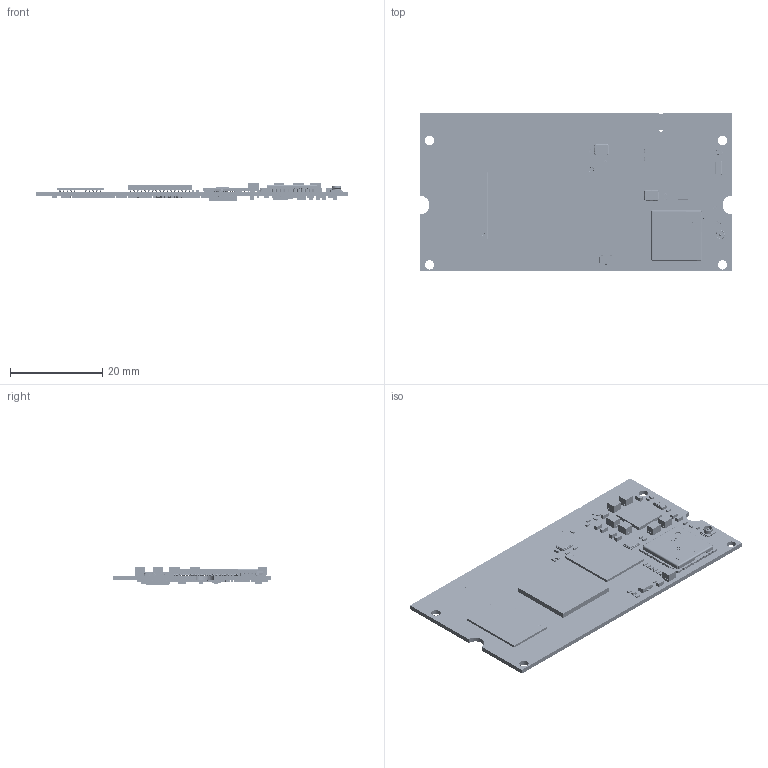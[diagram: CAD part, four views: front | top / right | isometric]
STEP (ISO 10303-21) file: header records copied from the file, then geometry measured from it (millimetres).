
FILE_DESCRIPTION(/* description */ ('PCB Design'),/* implementation_level */ '2;1');
FILE_NAME(/* name */ 'PICO-iMX8M-MINI-V2',/* time_stamp */ '2026-08-12T21:23:06+08:00',/* author */ (''),/* organization */ (''),/* preprocessor_version */ 'ST-DEVELOPER v16',/* originating_system */ 'allegro_17.2S053',/* authorisation */ '');
FILE_SCHEMA (('AUTOMOTIVE_DESIGN { 1 0 10303 214 3 1 1 }'));
Products named in the file (271): PICO-IMX8M-MINI-V2; BOARD_OUTLINE; COMPONENTS; UMLP8; SO-DIMM200; MARK; L25X20; DFN8_1P27_6X5MM_3P1; L0805; QFN44P0_90B12_00X12_00H1_50; LED_0603; 0402_RR; 0201_CC; R0402; C0402; C0603; 0402_CC; SOT23; XTAL2-3P2X1P5-SM; IND_SPH2520; SMT_UMCCVERT; X4S32X25; UQFN56_0P4_7X7_EP_S185; FBGA153_0P5_11P5X13; BGA486_0P5_14X14; BGA200_0P65X0P8_10P1X14P6; User Library-INDM2520X190N; User Library-DFN8-5X6; Pad005; Pad007; Pad008; Pad003; Pad004; Pad; Pad001; Pad002; Pad006; Pad009; 0; CR2012-0805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
Assembly tree (840 placements, depth 7):
  PICO-IMX8M-MINI-V2
    BOARD_OUTLINE
    COMPONENTS
      UMLP8  x2
      SO-DIMM200
      MARK  x6
      L25X20
        User Library-INDM2520X190N
      DFN8_1P27_6X5MM_3P1
        User Library-DFN8-5X6
          Pad001
          Pad002
          Pad
          Pad009
          Pad003
          Pad005
          Pad004
          Pad006
          Pad007
          Pad008
      L0805
        0
        CR2012-0805
      QFN44P0_90B12_00X12_00H1_50
        User Library-AP62XX-1
      LED_0603
        User Library-LED_0603_R
          Pocket002
          Pad004
          Fillet
          Pocket001
          Pad
      0402_RR  x7
        0
        CR1005-04021
      0201_CC  x42
        User Library-User Library-0201_Cap
      R0402  x100
        0
        CR1005-04021
      C0402  x107
        0
        SC0402
      C0603  x23
        0
        C0603-1
      0402_CC  x9
        0
        SC0402
      SOT23
        CircuitWorks-SOT-23
      XTAL2-3P2X1P5-SM
        0637D9F9-BE46-411F-B9CE-197B637E80A1
      IND_SPH2520  x6
        User Library-INDM2520X190N
      SMT_UMCCVERT
        User Library-IPEX
      X4S32X25  x2
        0
        3225-1
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Bounding box: 67.6 x 34.33 x 3.73 mm (x, y, z)
Volume: 780.4 mm3; surface area: 10328.6 mm2
Topology: 1858 solids, 2333 shells, 38308 faces, 87371 edges, 52623 vertices
Faces by surface type: bspline 30075, plane 6192, cylinder 1317, sphere 683, torus 35, cone 6
Entity records: 143485 total; most frequent: CARTESIAN_POINT 51604, ORIENTED_EDGE 13921, DIRECTION 10264, EDGE_CURVE 6974, VERTEX_POINT 4702, AXIS2_PLACEMENT_3D 4082, EDGE_LOOP 3381, FACE_OUTER_BOUND 3298
